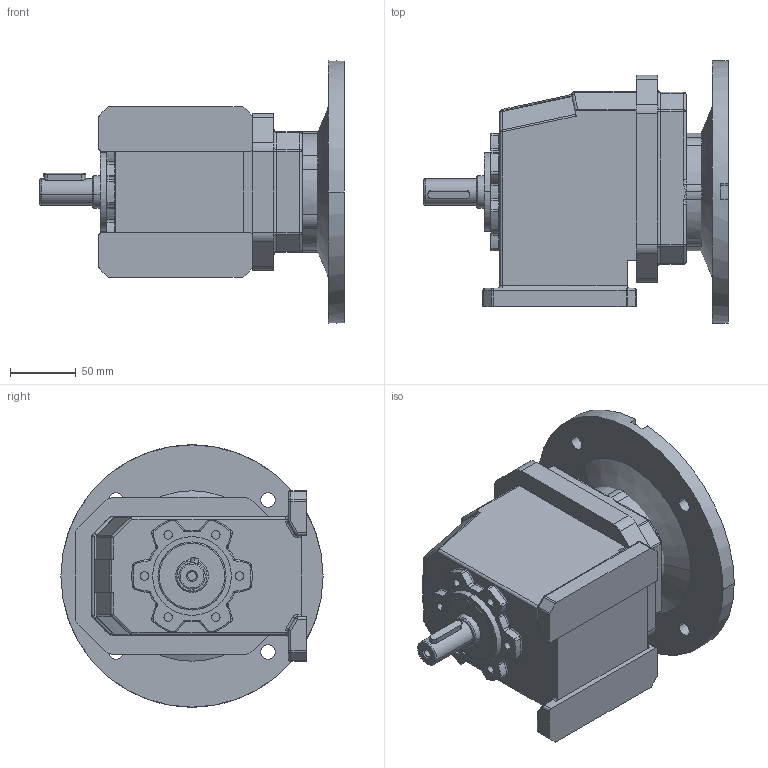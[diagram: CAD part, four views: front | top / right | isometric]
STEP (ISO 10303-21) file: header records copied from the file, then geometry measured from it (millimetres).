
FILE_DESCRIPTION (( 'STEP AP203' ), '1' );
FILE_NAME ('Red HG20 B5 24.STEP', '2019-07-16T07:04:50', ( '' ), ( '' ), 'SwSTEP 2.0', 'SolidWorks 2018', '' );
FILE_SCHEMA (( 'CONFIG_CONTROL_DESIGN' ));
Length unit declared in the file: millimetre
Products named in the file (4): HG20; Bride B5; Arbre 20 24; Red HG20 B5 24
Assembly tree (3 placements, depth 2):
  Red HG20 B5 24
    HG20
    Bride B5
    Arbre 20 24
Bounding box: 232 x 200 x 200 mm (x, y, z)
Volume: 2473842.4 mm3; surface area: 264838.9 mm2
Topology: 3 solids, 3 shells, 473 faces, 1145 edges, 679 vertices
Faces by surface type: cylinder 232, plane 108, torus 80, sphere 31, bspline 14, cone 8
Entity records: 14657 total; most frequent: CARTESIAN_POINT 2945, DIRECTION 2629, ORIENTED_EDGE 2254, EDGE_CURVE 1127, AXIS2_PLACEMENT_3D 1087, VERTEX_POINT 679, CIRCLE 622, EDGE_LOOP 516
